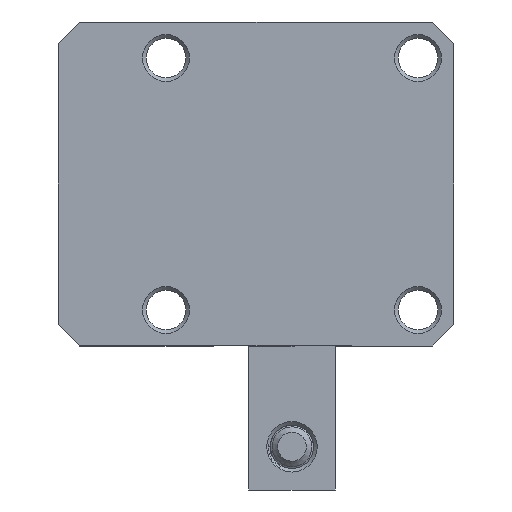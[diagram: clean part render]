
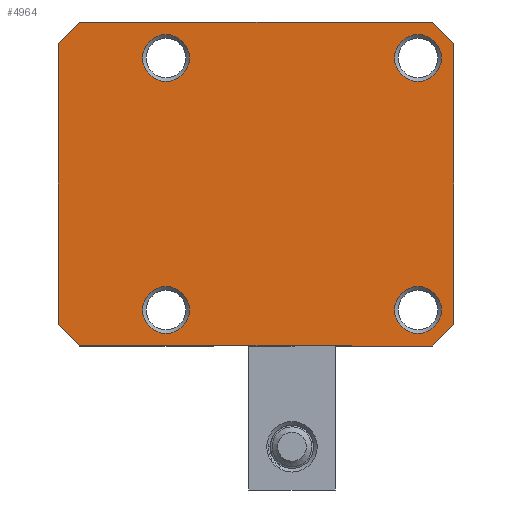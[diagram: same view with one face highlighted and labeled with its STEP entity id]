
A CAD part, front view. The second image highlights one B-rep face of the part: STEP entity #4964.
In plain terms, the highlighted planar face has unit normal (0, -1, 0).
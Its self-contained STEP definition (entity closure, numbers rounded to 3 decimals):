
#172=PLANE('',#5493);
#253=FACE_BOUND('',#806,.T.);
#254=FACE_BOUND('',#807,.T.);
#255=FACE_BOUND('',#808,.T.);
#256=FACE_BOUND('',#809,.T.);
#501=FACE_OUTER_BOUND('',#805,.T.);
#805=EDGE_LOOP('',(#3649,#3650,#3651,#3652,#3653,#3654,#3655,#3656));
#806=EDGE_LOOP('',(#3657));
#807=EDGE_LOOP('',(#3658));
#808=EDGE_LOOP('',(#3659));
#809=EDGE_LOOP('',(#3660));
#1144=LINE('',#7993,#1510);
#1161=LINE('',#8026,#1527);
#1168=LINE('',#8038,#1534);
#1170=LINE('',#8042,#1536);
#1171=LINE('',#8044,#1537);
#1176=LINE('',#8058,#1542);
#1194=LINE('',#8097,#1560);
#1195=LINE('',#8099,#1561);
#1510=VECTOR('',#6234,1000.);
#1527=VECTOR('',#6265,1000.);
#1534=VECTOR('',#6274,1000.);
#1536=VECTOR('',#6278,1000.);
#1537=VECTOR('',#6281,1000.);
#1542=VECTOR('',#6296,1000.);
#1560=VECTOR('',#6340,1000.);
#1561=VECTOR('',#6343,1000.);
#1832=CIRCLE('',#5416,3.25);
#1835=CIRCLE('',#5420,3.25);
#1838=CIRCLE('',#5424,3.25);
#1841=CIRCLE('',#5428,3.25);
#2129=VERTEX_POINT('',#7748);
#2132=VERTEX_POINT('',#7756);
#2135=VERTEX_POINT('',#7764);
#2138=VERTEX_POINT('',#7772);
#2191=VERTEX_POINT('',#7990);
#2192=VERTEX_POINT('',#7992);
#2200=VERTEX_POINT('',#8023);
#2201=VERTEX_POINT('',#8025);
#2205=VERTEX_POINT('',#8036);
#2206=VERTEX_POINT('',#8040);
#2209=VERTEX_POINT('',#8056);
#2210=VERTEX_POINT('',#8057);
#2622=EDGE_CURVE('',#2129,#2129,#1832,.T.);
#2626=EDGE_CURVE('',#2132,#2132,#1835,.T.);
#2630=EDGE_CURVE('',#2135,#2135,#1838,.T.);
#2634=EDGE_CURVE('',#2138,#2138,#1841,.T.);
#2707=EDGE_CURVE('',#2192,#2191,#1144,.T.);
#2725=EDGE_CURVE('',#2200,#2201,#1161,.T.);
#2732=EDGE_CURVE('',#2205,#2200,#1168,.T.);
#2734=EDGE_CURVE('',#2206,#2205,#1170,.T.);
#2735=EDGE_CURVE('',#2206,#2192,#1171,.T.);
#2741=EDGE_CURVE('',#2209,#2210,#1176,.T.);
#2760=EDGE_CURVE('',#2191,#2209,#1194,.T.);
#2761=EDGE_CURVE('',#2210,#2201,#1195,.T.);
#3649=ORIENTED_EDGE('',*,*,#2760,.T.);
#3650=ORIENTED_EDGE('',*,*,#2741,.T.);
#3651=ORIENTED_EDGE('',*,*,#2761,.T.);
#3652=ORIENTED_EDGE('',*,*,#2725,.F.);
#3653=ORIENTED_EDGE('',*,*,#2732,.F.);
#3654=ORIENTED_EDGE('',*,*,#2734,.F.);
#3655=ORIENTED_EDGE('',*,*,#2735,.T.);
#3656=ORIENTED_EDGE('',*,*,#2707,.T.);
#3657=ORIENTED_EDGE('',*,*,#2622,.T.);
#3658=ORIENTED_EDGE('',*,*,#2626,.T.);
#3659=ORIENTED_EDGE('',*,*,#2630,.T.);
#3660=ORIENTED_EDGE('',*,*,#2634,.T.);
#4964=ADVANCED_FACE('',(#501,#253,#254,#255,#256),#172,.T.);
#5416=AXIS2_PLACEMENT_3D('',#7750,#6081,#6082);
#5420=AXIS2_PLACEMENT_3D('',#7758,#6090,#6091);
#5424=AXIS2_PLACEMENT_3D('',#7766,#6099,#6100);
#5428=AXIS2_PLACEMENT_3D('',#7774,#6108,#6109);
#5493=AXIS2_PLACEMENT_3D('',#8098,#6341,#6342);
#6081=DIRECTION('center_axis',(0.,1.,0.));
#6082=DIRECTION('ref_axis',(0.,0.,-1.));
#6090=DIRECTION('center_axis',(0.,1.,0.));
#6091=DIRECTION('ref_axis',(0.,0.,-1.));
#6099=DIRECTION('center_axis',(0.,1.,0.));
#6100=DIRECTION('ref_axis',(0.,0.,-1.));
#6108=DIRECTION('center_axis',(0.,1.,0.));
#6109=DIRECTION('ref_axis',(0.,0.,-1.));
#6234=DIRECTION('',(1.,0.,0.));
#6265=DIRECTION('',(1.,0.,0.));
#6274=DIRECTION('',(0.707,0.,0.707));
#6278=DIRECTION('',(0.,0.,1.));
#6281=DIRECTION('',(0.707,0.,-0.707));
#6296=DIRECTION('',(0.,0.,1.));
#6340=DIRECTION('',(0.707,0.,0.707));
#6341=DIRECTION('center_axis',(0.,-1.,0.));
#6342=DIRECTION('ref_axis',(0.,0.,-1.));
#6343=DIRECTION('',(-0.707,0.,0.707));
#7748=CARTESIAN_POINT('',(480.63,64.989,20.75));
#7750=CARTESIAN_POINT('Origin',(480.63,64.989,17.5));
#7756=CARTESIAN_POINT('',(445.63,64.989,20.75));
#7758=CARTESIAN_POINT('Origin',(445.63,64.989,17.5));
#7764=CARTESIAN_POINT('',(445.63,64.989,-14.25));
#7766=CARTESIAN_POINT('Origin',(445.63,64.989,-17.5));
#7772=CARTESIAN_POINT('',(480.63,64.989,-14.25));
#7774=CARTESIAN_POINT('Origin',(480.63,64.989,-17.5));
#7990=CARTESIAN_POINT('',(482.63,64.989,-22.5));
#7992=CARTESIAN_POINT('',(433.63,64.989,-22.5));
#7993=CARTESIAN_POINT('',(458.13,64.989,-22.5));
#8023=CARTESIAN_POINT('',(433.63,64.989,22.5));
#8025=CARTESIAN_POINT('',(482.63,64.989,22.5));
#8026=CARTESIAN_POINT('',(458.13,64.989,22.5));
#8036=CARTESIAN_POINT('',(430.63,64.989,19.5));
#8038=CARTESIAN_POINT('',(432.13,64.989,21.));
#8040=CARTESIAN_POINT('',(430.63,64.989,-19.5));
#8042=CARTESIAN_POINT('',(430.63,64.989,0.));
#8044=CARTESIAN_POINT('',(432.13,64.989,-21.));
#8056=CARTESIAN_POINT('',(485.63,64.989,-19.5));
#8057=CARTESIAN_POINT('',(485.63,64.989,19.5));
#8058=CARTESIAN_POINT('',(485.63,64.989,0.));
#8097=CARTESIAN_POINT('',(484.13,64.989,-21.));
#8098=CARTESIAN_POINT('Origin',(430.63,64.989,22.5));
#8099=CARTESIAN_POINT('',(485.63,64.989,19.5));
